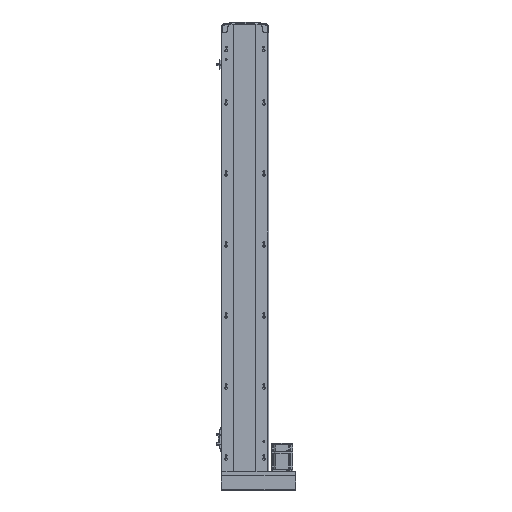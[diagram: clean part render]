
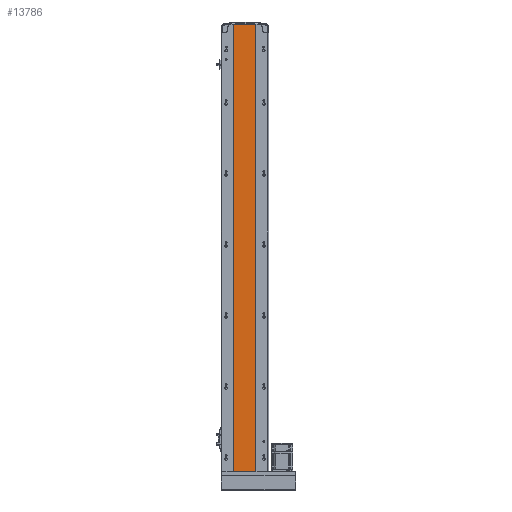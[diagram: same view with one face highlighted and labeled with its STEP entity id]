
A CAD part, front view. The second image highlights one B-rep face of the part: STEP entity #13786.
In plain terms, the highlighted planar face has unit normal (0, -1, 0).
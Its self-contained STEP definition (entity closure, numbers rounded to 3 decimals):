
#776 = EDGE_LOOP ( 'NONE', ( #22224, #18904, #16398, #12966 ) ) ;
#3997 = DIRECTION ( 'NONE',  ( 0., 0., -1. ) ) ;
#4352 = EDGE_CURVE ( 'NONE', #34609, #13342, #25818, .T. ) ;
#4445 = CARTESIAN_POINT ( 'NONE',  ( -32., 1., 1259. ) ) ;
#5845 = CARTESIAN_POINT ( 'NONE',  ( -32., 1., 1259. ) ) ;
#7263 = CARTESIAN_POINT ( 'NONE',  ( 30., 1., 0. ) ) ;
#7750 = CARTESIAN_POINT ( 'NONE',  ( 30., 1., 1259. ) ) ;
#8713 = VERTEX_POINT ( 'NONE', #7750 ) ;
#9615 = VECTOR ( 'NONE', #22270, 1000. ) ;
#10018 = VECTOR ( 'NONE', #25986, 1000. ) ;
#10670 = LINE ( 'NONE', #37115, #33351 ) ;
#12052 = VERTEX_POINT ( 'NONE', #5845 ) ;
#12534 = CARTESIAN_POINT ( 'NONE',  ( -32., 1., 1259. ) ) ;
#12966 = ORIENTED_EDGE ( 'NONE', *, *, #40665, .T. ) ;
#13342 = VERTEX_POINT ( 'NONE', #7263 ) ;
#13786 = ADVANCED_FACE ( 'NONE', ( #43589 ), #26505, .F. ) ;
#14263 = LINE ( 'NONE', #12534, #10018 ) ;
#16398 = ORIENTED_EDGE ( 'NONE', *, *, #36810, .F. ) ;
#18180 = DIRECTION ( 'NONE',  ( -1., 0., 0. ) ) ;
#18904 = ORIENTED_EDGE ( 'NONE', *, *, #37493, .F. ) ;
#21578 = VECTOR ( 'NONE', #48350, 1000. ) ;
#22224 = ORIENTED_EDGE ( 'NONE', *, *, #4352, .T. ) ;
#22270 = DIRECTION ( 'NONE',  ( 0., 0., -1. ) ) ;
#22344 = CARTESIAN_POINT ( 'NONE',  ( -32., 1., 1259. ) ) ;
#22543 = DIRECTION ( 'NONE',  ( 0., 1., 0. ) ) ;
#25044 = CARTESIAN_POINT ( 'NONE',  ( -32., 1., 0. ) ) ;
#25818 = LINE ( 'NONE', #25044, #21578 ) ;
#25986 = DIRECTION ( 'NONE',  ( 1., 0., 0. ) ) ;
#26505 = PLANE ( 'NONE',  #47543 ) ;
#26647 = LINE ( 'NONE', #4445, #9615 ) ;
#33351 = VECTOR ( 'NONE', #3997, 1000. ) ;
#34609 = VERTEX_POINT ( 'NONE', #45718 ) ;
#36810 = EDGE_CURVE ( 'NONE', #12052, #8713, #14263, .T. ) ;
#37115 = CARTESIAN_POINT ( 'NONE',  ( 30., 1., 1259. ) ) ;
#37493 = EDGE_CURVE ( 'NONE', #8713, #13342, #10670, .T. ) ;
#40665 = EDGE_CURVE ( 'NONE', #12052, #34609, #26647, .T. ) ;
#43589 = FACE_OUTER_BOUND ( 'NONE', #776, .T. ) ;
#45718 = CARTESIAN_POINT ( 'NONE',  ( -32., 1., 0. ) ) ;
#47543 = AXIS2_PLACEMENT_3D ( 'NONE', #22344, #22543, #18180 ) ;
#48350 = DIRECTION ( 'NONE',  ( 1., 0., 0. ) ) ;
